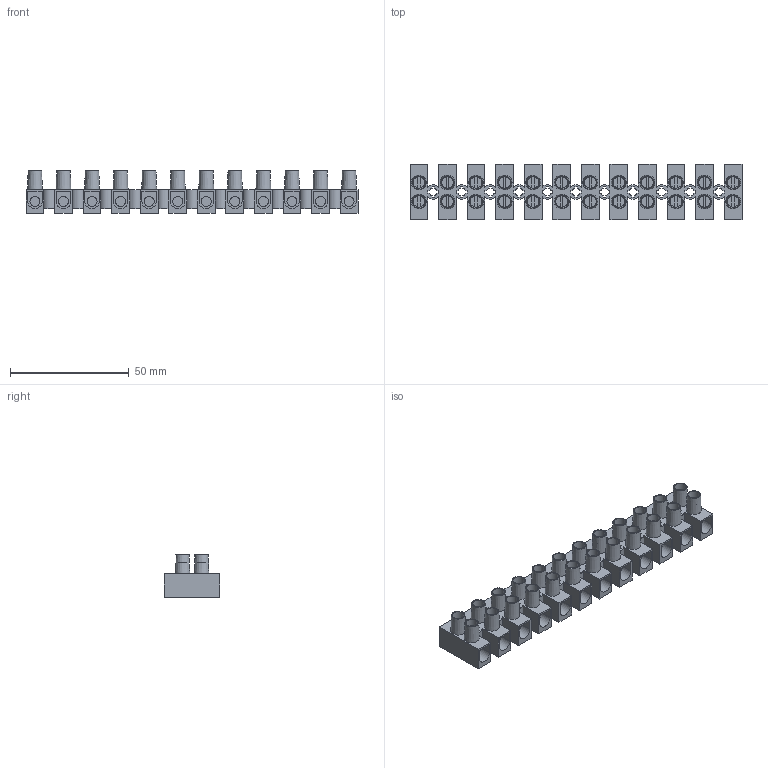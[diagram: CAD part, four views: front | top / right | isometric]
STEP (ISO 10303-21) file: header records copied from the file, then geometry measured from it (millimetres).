
FILE_DESCRIPTION(/* description */ ('Unknown'),/* implementation_level */ '2;1');
FILE_NAME(/* name */ 'MT 1110 TS',/* time_stamp */ '2021-10-08T09:53:18+02:00',/* author */ ('Unknown'),/* organization */ ('Unknown'),/* preprocessor_version */ 'ST-DEVELOPER v16.7',/* originating_system */ 'Solid Edge',/* authorisation */ 'Unknown');
FILE_SCHEMA (('AUTOMOTIVE_DESIGN {1 0 10303 214 3 1 1}'));
Length unit declared in the file: millimetre
Products named in the file (1): MT 1110 TS
Bounding box: 139.5 x 23.2 x 18 mm (x, y, z)
Volume: 17045.2 mm3; surface area: 23949.7 mm2
Topology: 1 solids, 1 shells, 679 faces, 1764 edges, 1184 vertices
Faces by surface type: plane 517, cylinder 138, cone 24
Full cylindrical faces by diameter (mm): 4.2 x24, 4.9 x24
Entity records: 20028 total; most frequent: CARTESIAN_POINT 3460, DIRECTION 3400, ORIENTED_EDGE 3288, EDGE_CURVE 1644, LINE 1248, VECTOR 1248, VERTEX_POINT 1136, AXIS2_PLACEMENT_3D 1076
